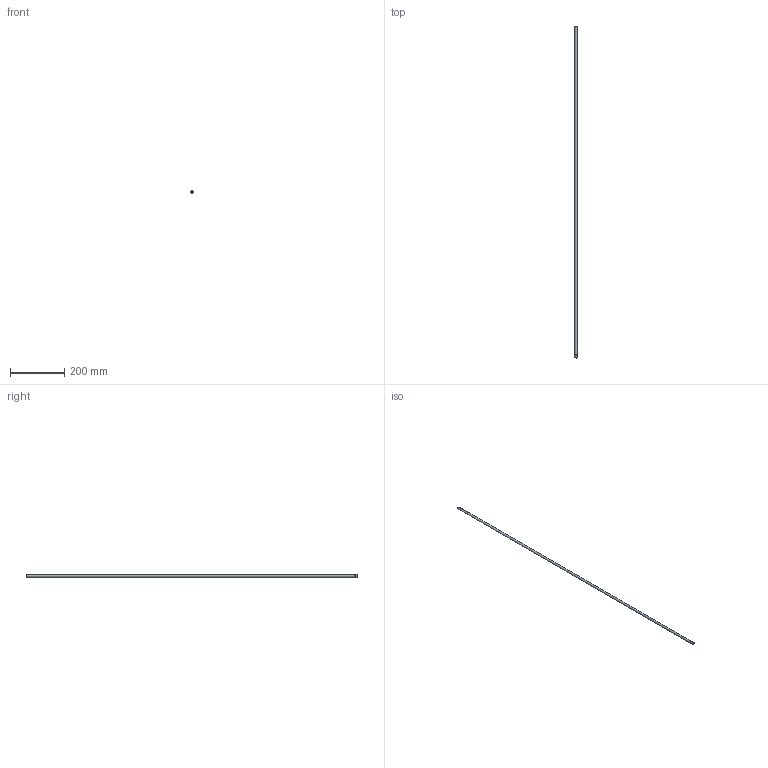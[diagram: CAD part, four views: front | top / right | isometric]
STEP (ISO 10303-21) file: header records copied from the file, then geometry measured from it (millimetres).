
FILE_DESCRIPTION(/* description */ (''),/* implementation_level */ '2;1');
FILE_NAME(/* name */ 'C:/Users/drich/Desktop/JHF312T-48 v1.step',/* time_stamp */ '2020-01-02T20:09:00-06:00',/* author */ (''),/* organization */ (''),/* preprocessor_version */ 'ST-DEVELOPER v18',/* originating_system */ 'Autodesk Translation Framework v8.12.0.6',/* authorisation */ '');
FILE_SCHEMA (('AUTOMOTIVE_DESIGN { 1 0 10303 214 3 1 1 }'));
Length unit declared in the file: inch
Products named in the file (1): JHF312T-48
Bounding box: 11.15 x 1219.2 x 11.15 mm (x, y, z)
Volume: 9406.2 mm3; surface area: 58578.9 mm2
Topology: 1 solids, 1 shells, 10 faces, 24 edges, 18 vertices
Faces by surface type: cylinder 4, plane 4, cone 1, torus 1
Full cylindrical faces by diameter (mm): 7.315 x1, 7.925 x1, 11.011 x1, 11.151 x1
Entity records: 354 total; most frequent: DIRECTION 65, CARTESIAN_POINT 53, ORIENTED_EDGE 48, AXIS2_PLACEMENT_3D 30, EDGE_CURVE 24, CIRCLE 19, VERTEX_POINT 18, EDGE_LOOP 14
